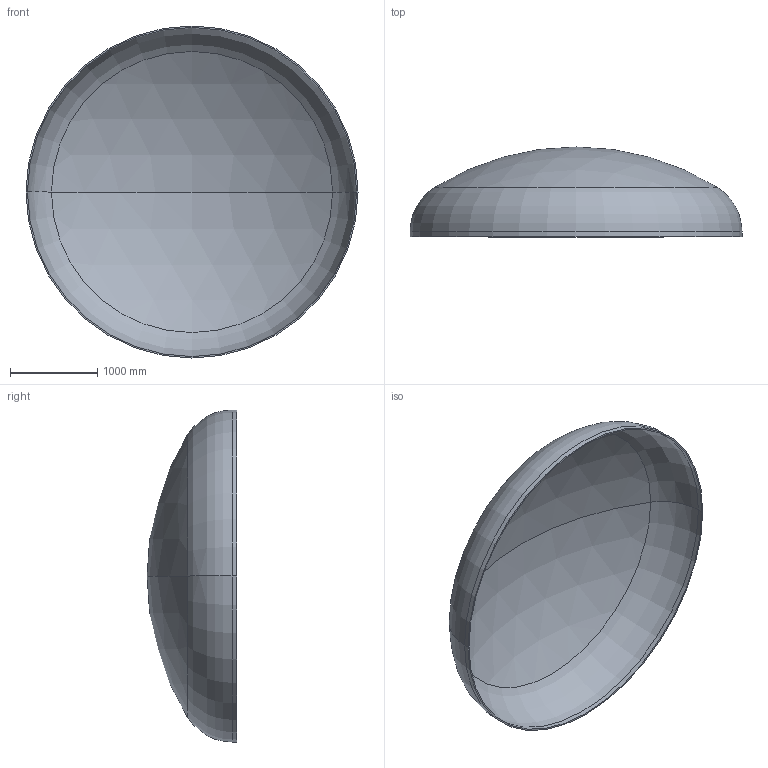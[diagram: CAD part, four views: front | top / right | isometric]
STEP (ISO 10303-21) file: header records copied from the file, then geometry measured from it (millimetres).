
FILE_DESCRIPTION (( 'STEP AP203' ), '1' );
FILE_NAME ('DIN 28013 Korbbogenform_-_Boden DIN 28013 - 3800 x 55 - I - s=16.step', '2016-07-01T21:05:45', ( '' ), ( '' ), 'SwSTEP 2.0', 'SolidWorks 2013', '' );
FILE_SCHEMA (( 'CONFIG_CONTROL_DESIGN' ));
Length unit declared in the file: millimetre
Products named in the file (1): DIN 28013 Korbbogenform_-_Boden DIN 28013 - 3800 x 55 - I - s=16
Bounding box: 3800 x 1027.82 x 3800 mm (x, y, z)
Volume: 260378755.6 mm3; surface area: 32738072.2 mm2
Topology: 1 solids, 1 shells, 13 faces, 24 edges, 14 vertices
Faces by surface type: torus 4, cylinder 4, sphere 4, plane 1
Entity records: 407 total; most frequent: DIRECTION 72, CARTESIAN_POINT 52, ORIENTED_EDGE 48, AXIS2_PLACEMENT_3D 34, EDGE_CURVE 24, CIRCLE 20, EDGE_LOOP 14, VERTEX_POINT 14
